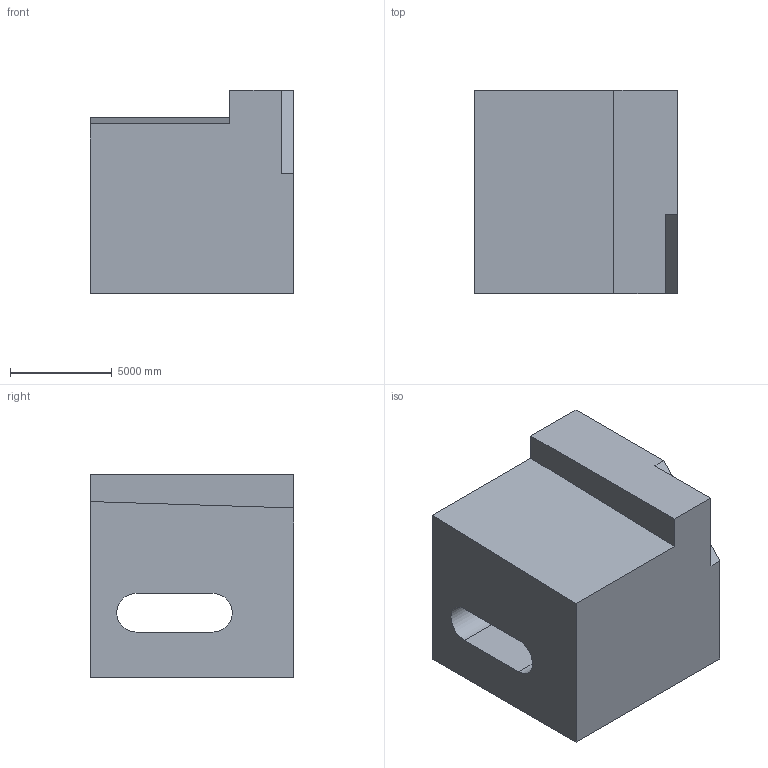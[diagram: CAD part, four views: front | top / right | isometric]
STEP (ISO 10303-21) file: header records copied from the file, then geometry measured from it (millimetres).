
FILE_DESCRIPTION (( 'STEP AP203' ), '1' );
FILE_NAME ('127.STEP', '2022-09-05T15:38:03', ( 'user' ), ( '' ), 'SwSTEP 2.0', 'SolidWorks 2021', '' );
FILE_SCHEMA (( 'CONFIG_CONTROL_DESIGN' ));
Length unit declared in the file: centimetre
Products named in the file (1): 127
Bounding box: 10000 x 10000 x 10000 mm (x, y, z)
Volume: 792367302810.2 mm3; surface area: 693313383.3 mm2
Topology: 1 solids, 1 shells, 14 faces, 36 edges, 24 vertices
Faces by surface type: plane 12, cylinder 2
Entity records: 505 total; most frequent: CARTESIAN_POINT 75, ORIENTED_EDGE 72, DIRECTION 70, EDGE_CURVE 36, VECTOR 32, LINE 32, VERTEX_POINT 24, AXIS2_PLACEMENT_3D 19
